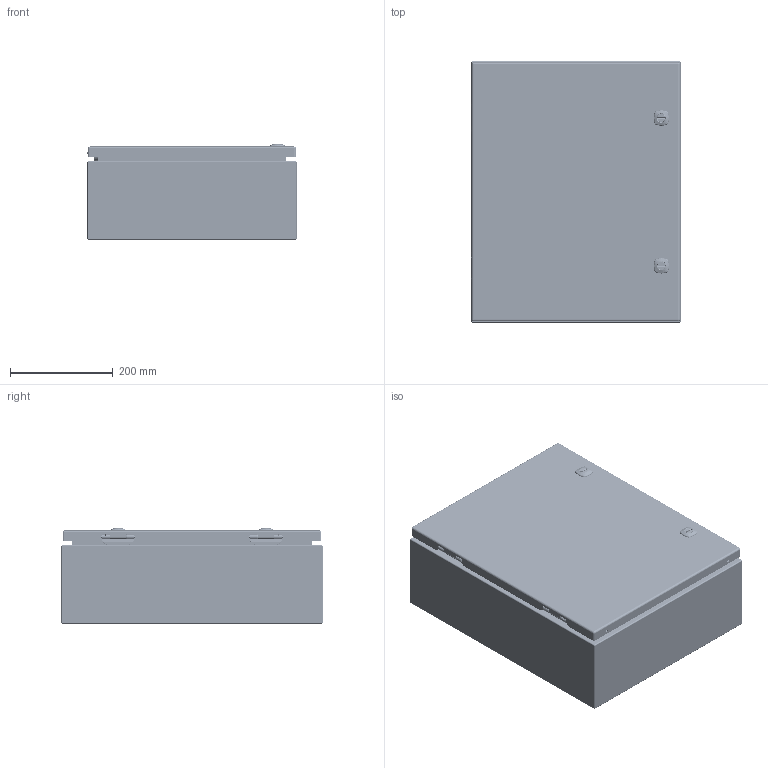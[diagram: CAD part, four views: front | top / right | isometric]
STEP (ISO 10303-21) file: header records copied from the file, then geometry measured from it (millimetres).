
FILE_DESCRIPTION(/* description */ ('5412ES 20" x 16" x 6" Assembly'),/* implementation_level */ '2;1');
FILE_NAME(/* name */ '5412ESB201606.stp',/* time_stamp */ '2024-01-17T17:56:47-05:00',/* author */ ('BoxCad'),/* organization */ (''),/* preprocessor_version */ 'ST-DEVELOPER v20',/* originating_system */ 'Autodesk Inventor 2024',/* authorisation */ '');
FILE_SCHEMA (('AUTOMOTIVE_DESIGN { 1 0 10303 214 3 1 1 }'));
Products named in the file (43): 5412ESB201606; 5412ESB201606B; 5412ESB201606B-P; STK-Q-16005; STUD_M6 x 16mm; 5412ESB201606C; 5412ESB201606C-P; 5412ESB201606G; STK-K-09800; STK-K-09800-2; STK-Q-33014; STK-Q-90398; STK-Q-40095; STK-Q-63410; STK-Q-16055; STK-Q-46020-20; STK-Q-07220-1; STK-Q-07220-2; STK-Q-07220-3; STK-Q-07220-4; STK-Q-07220-A; STK-Q-07220-B; STK-P-03820R; STK-S-00100; STK-K-12500; STK-Q-78111; STK-Q-78141; STK-Q-78120; STK-Q-78145; STK-Q-03200; STK-Q-78160; STK-Q-90390; STK-Q-78111-R; STK-Q-04050-08-1; STK-Q-04050-08-2; STK-Q-04050-08-P; STK-Q-04051-N; STK-A-01800; 5412ESB201606IPK; STK-Q-07610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
Assembly tree (73 placements, depth 4):
  5412ESB201606
    5412ESB201606B
      5412ESB201606B-P
      STK-Q-16005  x4
      STK-P-03820R
      STUD_M6 x 16mm
    5412ESB201606C
      5412ESB201606C-P
      5412ESB201606G
      STK-K-09800
        STK-Q-33014
        STK-Q-90398
        STK-Q-40095  x2
        STK-Q-63410  x2
      STK-K-09800-2
        STK-Q-33014
        STK-Q-90398
        STK-Q-40095  x2
        STK-Q-63410  x2
      STK-Q-16055  x4
      STK-Q-46020-20  x2
      STK-Q-07220-1
        STK-Q-07220-A
        STK-Q-07220-B
      STK-Q-07220-2
        STK-Q-07220-A
        STK-Q-07220-B
      STK-Q-07220-3
        STK-Q-07220-A
        STK-Q-07220-B
      STK-Q-07220-4
        STK-Q-07220-A
        STK-Q-07220-B
      STK-P-03820R
      STK-S-00100
      STK-K-12500  x2
        STK-Q-78111
        STK-Q-78141
        STK-Q-78120
        STK-Q-78145
        STK-Q-03200
        STK-Q-78160
        STK-Q-90390
        STK-Q-78111-R
    STK-Q-04050-08-1
      STK-Q-04050-08-P
      STK-Q-04051-N
    STK-Q-04050-08-2
      STK-Q-04050-08-P
      STK-Q-04051-N
    STK-A-01800
    5412ESB201606IPK
      STK-Q-07610  x4
      STK-Q-07310  x4
    881SP2016G
      881SP2016G-P
Bounding box: 406.47 x 508 x 185.67 mm (x, y, z)
Volume: 1671163.7 mm3; surface area: 2103574.5 mm2
Topology: 64 solids, 64 shells, 9692 faces, 25609 edges, 16056 vertices
Faces by surface type: bspline 3330, plane 2775, cylinder 2552, torus 679, sphere 220, cone 136
Full cylindrical faces by diameter (mm): 0 x1, 0.75 x9, 0.762 x9, 1 x8, 1.1 x8, 3.2 x4, 4.191 x32, 4.5 x4, 4.521 x8, 4.75 x2, 4.85 x16, 4.95 x4, 5 x4, 5.1 x30, 5.156 x4, 5.6 x2, 5.9 x25, 6.015 x32, 6.65 x4, 6.8 x4, 6.85 x8, 7.3 x2, 7.366 x4, 7.9 x8, 8 x12, 8.382 x2, 9.5 x4, 9.6 x2, 9.906 x4, 10 x2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
Entity records: 150114 total; most frequent: CARTESIAN_POINT 60496, ORIENTED_EDGE 20298, DIRECTION 15202, EDGE_CURVE 10149, VERTEX_POINT 6344, AXIS2_PLACEMENT_3D 5618, EDGE_LOOP 4211, FACE_OUTER_BOUND 3975
